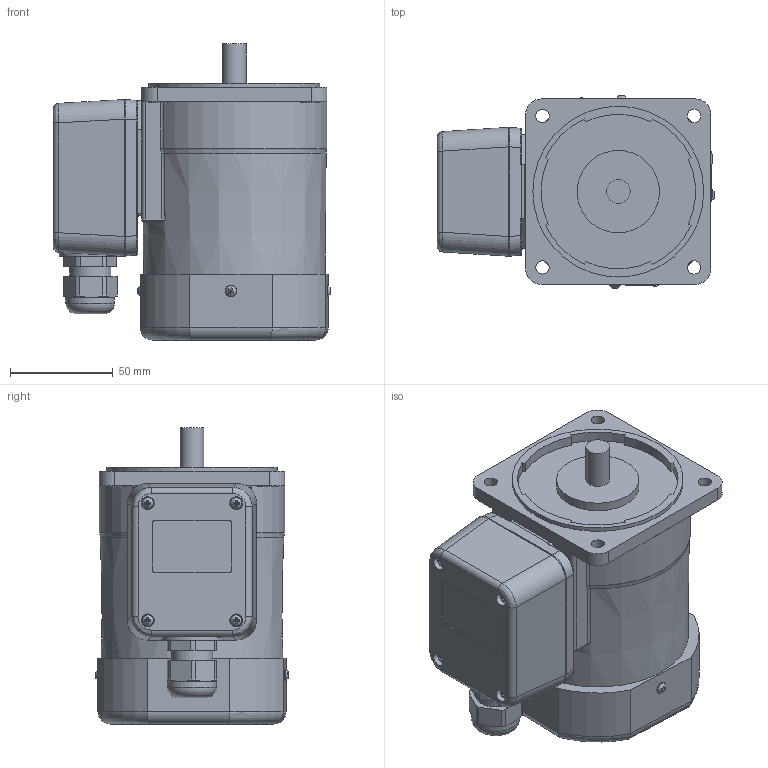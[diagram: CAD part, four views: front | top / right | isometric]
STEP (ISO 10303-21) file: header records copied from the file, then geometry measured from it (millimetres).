
FILE_DESCRIPTION((''),'2;1');
FILE_NAME('\\192.168.2.97\미주향 도면\S9I60G_-TCE.stp','2013-11-27T15:04:59',('jy-jung'),(''),'Autodesk Inventor 2011','Autodesk Inventor 2011','');
FILE_SCHEMA(('AUTOMOTIVE_DESIGN { 1 0 10303 214 1 1 1 1 }'));
Length unit declared in the file: millimetre
Products named in the file (1): 부품57
Bounding box: 134.93 x 93.88 x 143.8 mm (x, y, z)
Volume: 1003042.2 mm3; surface area: 78847.6 mm2
Topology: 1 solids, 13 shells, 487 faces, 1208 edges, 768 vertices
Faces by surface type: plane 262, cylinder 127, bspline 53, torus 33, cone 12
Full cylindrical faces by diameter (mm): 2.55 x2, 3 x4, 3.5 x4, 5.6 x8, 6.3 x4, 6.5 x4, 9.5 x4, 11.5 x1, 12.5 x1, 15 x1, 20 x2, 21 x1, 23.6 x1, 40 x1, 83 x1
Entity records: 16401 total; most frequent: CARTESIAN_POINT 5126, ORIENTED_EDGE 2214, DIRECTION 2119, EDGE_CURVE 1107, AXIS2_PLACEMENT_3D 760, VERTEX_POINT 743, EDGE_LOOP 600, VECTOR 599
